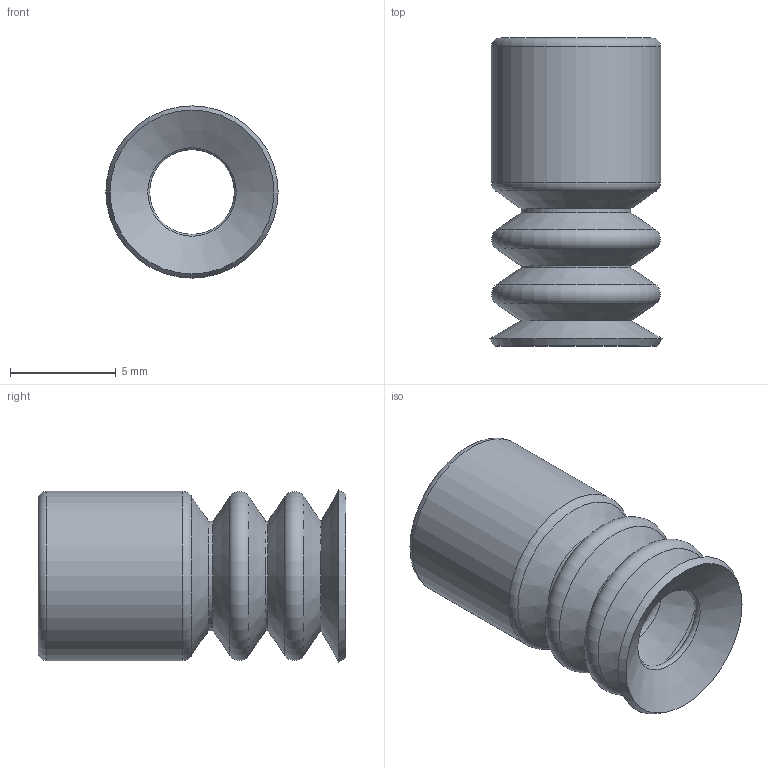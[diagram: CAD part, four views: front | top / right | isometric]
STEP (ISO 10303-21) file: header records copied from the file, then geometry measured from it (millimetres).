
FILE_DESCRIPTION (( 'STEP AP214' ), '1' );
FILE_NAME ('25B.008.001.STEP', '2025-01-14T12:46:56', ( '' ), ( '' ), 'SwSTEP 2.0', 'SolidWorks 2018', '' );
FILE_SCHEMA (( 'AUTOMOTIVE_DESIGN' ));
Length unit declared in the file: millimetre
Products named in the file (1): 25B.008.001
Bounding box: 8.15 x 14.57 x 8.15 mm (x, y, z)
Volume: 368.8 mm3; surface area: 753.3 mm2
Topology: 1 solids, 1 shells, 25 faces, 50 edges, 26 vertices
Faces by surface type: cone 12, torus 8, cylinder 4, plane 1
Full cylindrical faces by diameter (mm): 4 x1, 5.2 x2, 8 x1
Entity records: 572 total; most frequent: CARTESIAN_POINT 109, DIRECTION 100, AXIS2_PLACEMENT_3D 50, ORIENTED_EDGE 50, EDGE_LOOP 50, FACE_OUTER_BOUND 37, ADVANCED_FACE 25, EDGE_CURVE 25
